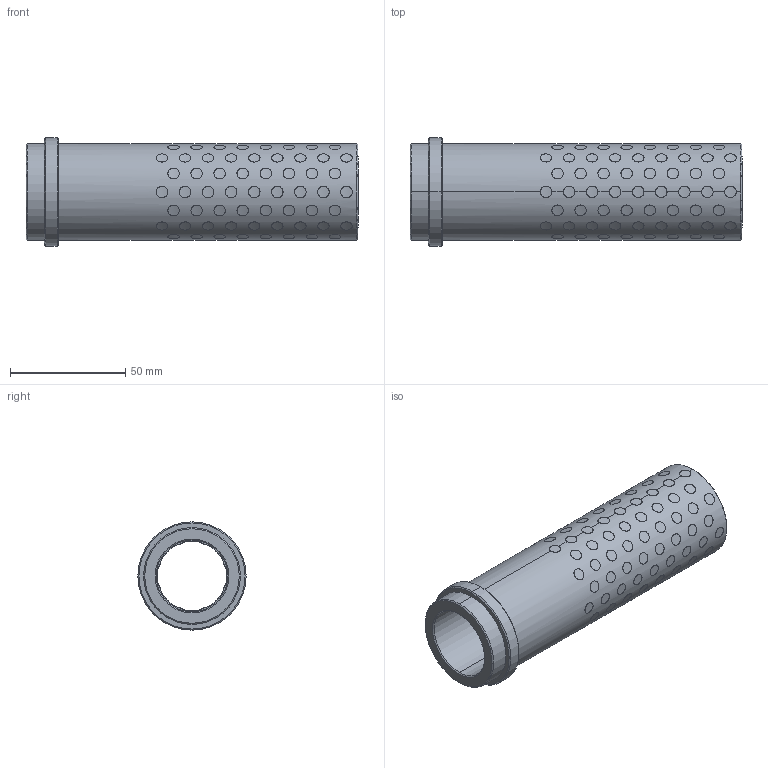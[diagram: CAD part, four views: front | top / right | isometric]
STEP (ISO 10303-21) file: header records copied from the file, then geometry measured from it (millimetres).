
FILE_DESCRIPTION((''),'2;1');
FILE_NAME('G31230136','2017-12-30T',('MANU'),(''),'PRO/ENGINEER BY PARAMETRIC TECHNOLOGY CORPORATION, 2012130','PRO/ENGINEER BY PARAMETRIC TECHNOLOGY CORPORATION, 2012130','');
FILE_SCHEMA(('CONFIG_CONTROL_DESIGN'));
Products named in the file (1): G31230136
Bounding box: 144 x 47 x 47 mm (x, y, z)
Volume: 96811.9 mm3; surface area: 60198.6 mm2
Topology: 137 solids, 137 shells, 843 faces, 1794 edges, 1192 vertices
Faces by surface type: cylinder 826, cone 12, plane 5
Entity records: 43264 total; most frequent: CARTESIAN_POINT 26895, ORIENTED_EDGE 3588, DIRECTION 2352, EDGE_CURVE 1794, VERTEX_POINT 1192, B_SPLINE_CURVE_WITH_KNOTS 1160, EDGE_LOOP 1084, AXIS2_PLACEMENT_3D 875
